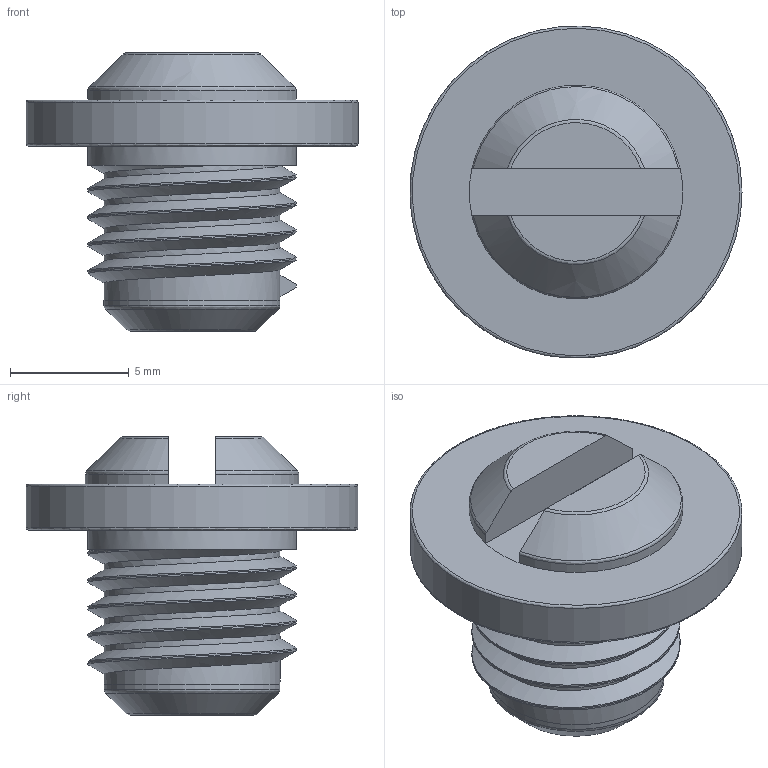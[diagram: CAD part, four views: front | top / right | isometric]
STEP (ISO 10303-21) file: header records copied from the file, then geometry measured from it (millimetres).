
FILE_DESCRIPTION ((), '1');
FILE_NAME ('C:\Users\tprototype\Desktop\TeslaGen Project\TeslaGen-v1 CAD Package\CNC Parts\Spark Gap\Adjustment Screw\Adjustment_screw.stp', '2016-11-23T12:54:50', ('Unknown'), ('Unknown'), 'HarmonyWare STEP v1.7.11', 'HarmonyWare Translators', '');
FILE_SCHEMA (('CONFIG_CONTROL_DESIGN'));
Length unit declared in the file: millimetre
Products named in the file (1): product-name
Bounding box: 14 x 13.99 x 11.75 mm (x, y, z)
Volume: 741.9 mm3; surface area: 705.3 mm2
Topology: 1 solids, 1 shells, 36 faces, 86 edges, 52 vertices
Faces by surface type: bspline 36
Entity records: 10354 total; most frequent: CARTESIAN_POINT 9768, ORIENTED_EDGE 172, EDGE_CURVE 86, B_SPLINE_CURVE_WITH_KNOTS 55, VERTEX_POINT 52, EDGE_LOOP 36, FACE_OUTER_BOUND 36, ADVANCED_FACE 36
